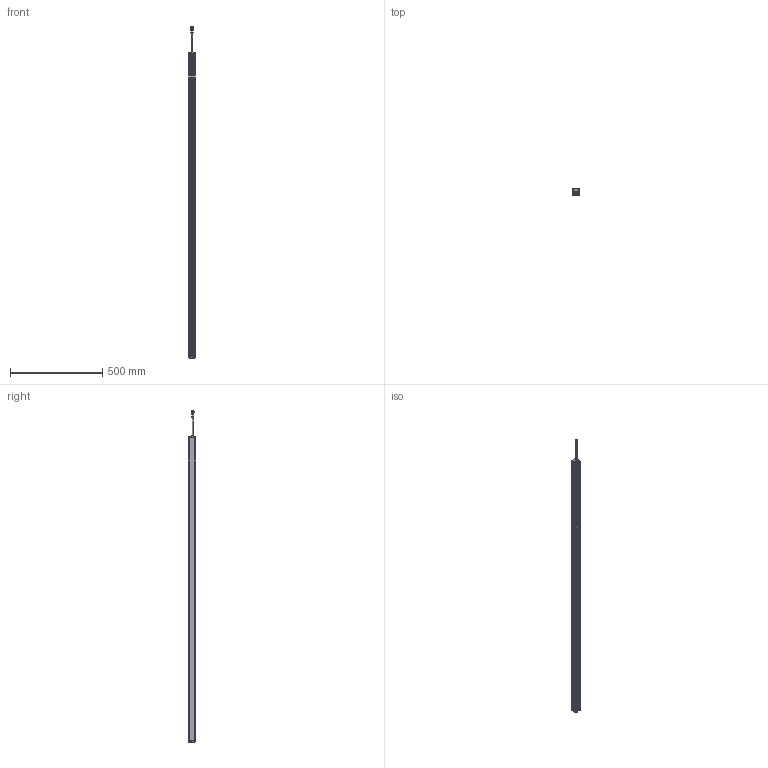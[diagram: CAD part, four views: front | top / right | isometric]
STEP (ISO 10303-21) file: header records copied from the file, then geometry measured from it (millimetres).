
FILE_DESCRIPTION((''),'2;1');
FILE_NAME('PRT0041','2026-03-31T14:07:54',('Administrator'),(''),'CREO PARAMETRIC BY PTC INC, 2016510','CREO PARAMETRIC BY PTC INC, 2016510','');
FILE_SCHEMA(('AUTOMOTIVE_DESIGN { 1 0 10303 214 1 1 1 1 }'));
Length unit declared in the file: millimetre
Products named in the file (1): PRT0041
Bounding box: 33 x 38 x 1801.9 mm (x, y, z)
Surface area: 359131.5 mm2 (no closed solid volume)
Topology: 0 solids, 12 shells, 793 faces, 2086 edges, 1320 vertices
Faces by surface type: plane 384, cylinder 227, extrusion 84, torus 34, sphere 32, cone 28, bspline 4
Entity records: 31106 total; most frequent: CARTESIAN_POINT 5855, ORIENTED_EDGE 4084, DIRECTION 3865, EDGE_CURVE 2042, VERTEX_POINT 1320, AXIS2_PLACEMENT_3D 1307, VECTOR 1251, LINE 1167
